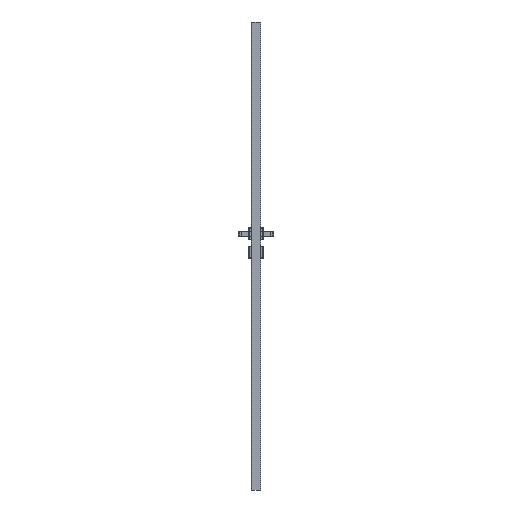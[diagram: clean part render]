
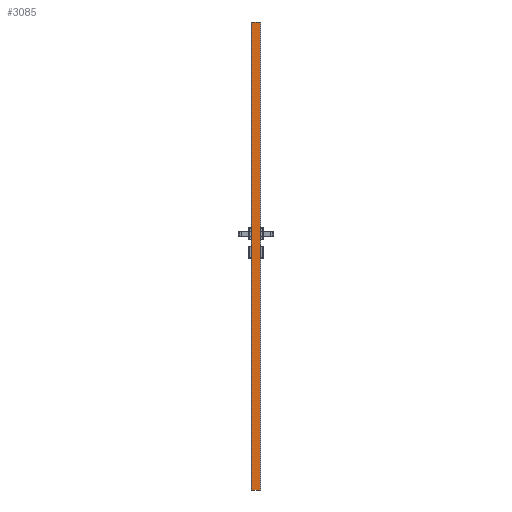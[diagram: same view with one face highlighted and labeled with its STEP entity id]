
A CAD part, left-side view. The second image highlights one B-rep face of the part: STEP entity #3085.
In plain terms, the highlighted planar face has unit normal (-1, 0, 0).
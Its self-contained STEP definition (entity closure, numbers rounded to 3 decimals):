
#1723=FACE_OUTER_BOUND('',#6187,.T.);
#3085=ADVANCED_FACE('',(#1723),#4461,.F.);
#4461=PLANE('',#24694);
#6187=EDGE_LOOP('',(#9711,#9712,#9713,#9714));
#9711=ORIENTED_EDGE('',*,*,#17409,.F.);
#9712=ORIENTED_EDGE('',*,*,#17410,.F.);
#9713=ORIENTED_EDGE('',*,*,#17411,.T.);
#9714=ORIENTED_EDGE('',*,*,#17412,.T.);
#14901=VERTEX_POINT('',#35656);
#14902=VERTEX_POINT('',#35657);
#14903=VERTEX_POINT('',#35659);
#14904=VERTEX_POINT('',#35661);
#17409=EDGE_CURVE('',#14901,#14902,#20727,.T.);
#17410=EDGE_CURVE('',#14903,#14901,#20728,.T.);
#17411=EDGE_CURVE('',#14903,#14904,#20729,.T.);
#17412=EDGE_CURVE('',#14904,#14902,#20730,.T.);
#20727=LINE('',#35655,#23055);
#20728=LINE('',#35658,#23056);
#20729=LINE('',#35660,#23057);
#20730=LINE('',#35662,#23058);
#23055=VECTOR('',#28306,1.);
#23056=VECTOR('',#28307,1.);
#23057=VECTOR('',#28308,1.);
#23058=VECTOR('',#28309,1.);
#24694=AXIS2_PLACEMENT_3D('',#35663,#28310,#28311);
#28306=DIRECTION('',(0.,-1.,0.));
#28307=DIRECTION('',(0.,0.,1.));
#28308=DIRECTION('',(0.,-1.,0.));
#28309=DIRECTION('',(0.,0.,1.));
#28310=DIRECTION('',(1.,0.,0.));
#28311=DIRECTION('',(0.,1.,0.));
#35655=CARTESIAN_POINT('',(-309.,-39.85,2017.));
#35656=CARTESIAN_POINT('',(-309.,-0.85,2017.));
#35657=CARTESIAN_POINT('',(-309.,-38.85,2017.));
#35658=CARTESIAN_POINT('',(-309.,-0.85,0.));
#35659=CARTESIAN_POINT('',(-309.,-0.85,0.));
#35660=CARTESIAN_POINT('',(-309.,0.15,0.));
#35661=CARTESIAN_POINT('',(-309.,-38.85,0.));
#35662=CARTESIAN_POINT('',(-309.,-38.85,0.));
#35663=CARTESIAN_POINT('',(-309.,0.15,2070.));
